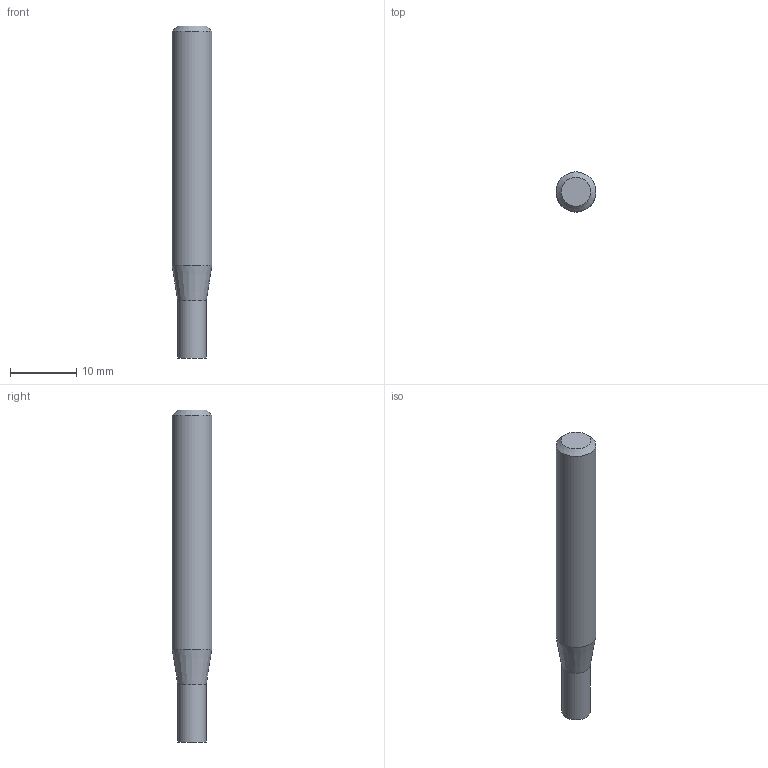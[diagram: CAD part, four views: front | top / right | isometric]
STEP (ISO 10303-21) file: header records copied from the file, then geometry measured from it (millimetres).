
FILE_DESCRIPTION((''),'2;1');
FILE_NAME('C:\Users\nsx150\AppData\Local\Temp\Mastercam 2021\98T1Q6BTT1\TEMP.step','2021-10-21T14:48:35',(''),(''),'STEP Write','Mastercam 2021 ... CNC Software, Inc.','');
FILE_SCHEMA(('AUTOMOTIVE_DESIGN'));
Length unit declared in the file: millimetre
Products named in the file (1): None
Bounding box: 6 x 6 x 50 mm (x, y, z)
Volume: 1251 mm3; surface area: 945.5 mm2
Topology: 2 solids, 2 shells, 8 faces, 10 edges, 6 vertices
Faces by surface type: plane 4, cylinder 2, cone 2
Full cylindrical faces by diameter (mm): 4.3 x1, 6 x1
Entity records: 190 total; most frequent: DIRECTION 32, CARTESIAN_POINT 22, AXIS2_PLACEMENT_3D 16, ORIENTED_EDGE 12, EDGE_LOOP 12, STYLED_ITEM 11, ADVANCED_FACE 8, VERTEX_POINT 6
